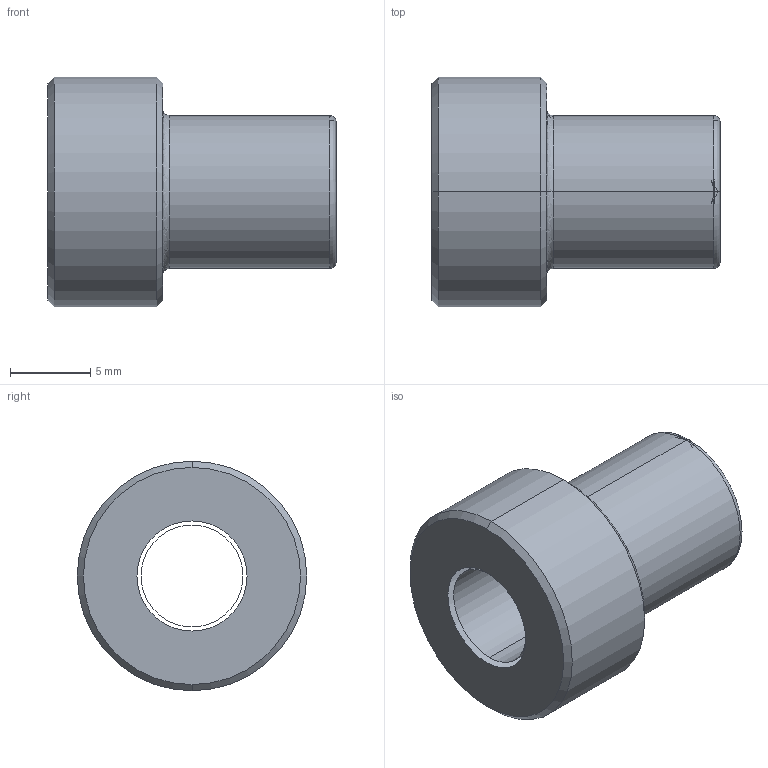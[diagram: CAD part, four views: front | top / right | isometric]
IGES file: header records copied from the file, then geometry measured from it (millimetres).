
Start section: 3D InterOp IGES (v. 2019 1.0.2), Spatial Corp. Copyright (c) 1999-2017.
Global section: file name: B2SS.igs; native system: Spatial Corp.; preprocessor: 3D InterOp GENERIC/IGES 3.0; author: Noname; organization: Noname; date: 20200930.105758; units: millimetre
Bounding box: 17.93 x 14.29 x 14.29 mm (x, y, z)
Surface area: 1290.2 mm2 (no closed solid volume)
Topology: 0 solids, 0 shells, 21 faces, 88 edges, 86 vertices
Faces by surface type: revolution 18, extrusion 3
